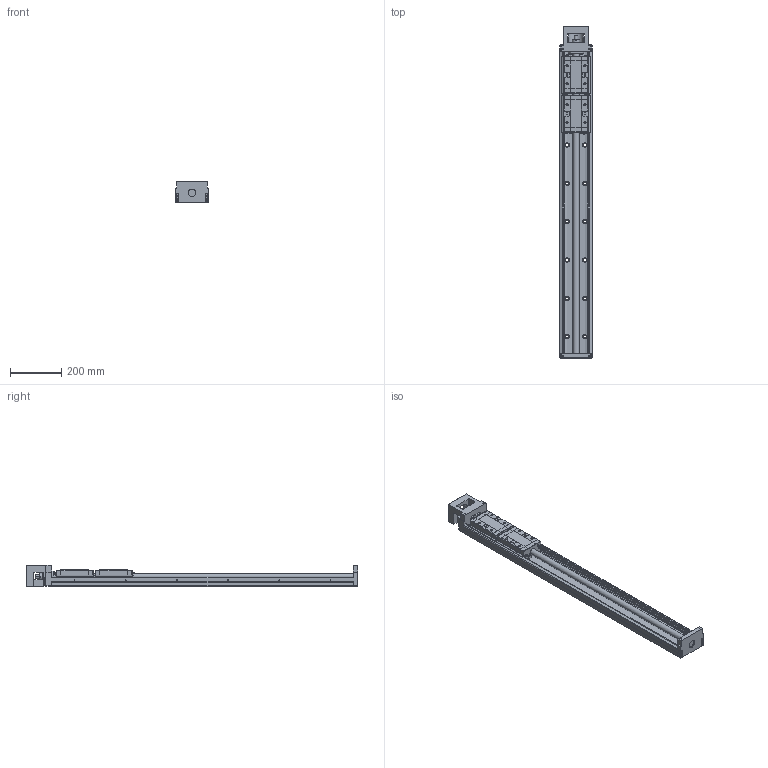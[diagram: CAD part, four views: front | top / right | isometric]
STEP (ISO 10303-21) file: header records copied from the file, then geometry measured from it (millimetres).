
FILE_DESCRIPTION(('no description'),'unknown implementation level');
FILE_NAME('KK13025P1180A2F0000_FILE_15.stp',' ',('HIWIN GmbH'),('CADClick - KiM GmbH - www.kimweb.de'),'unknown preprocess','ACIS','unknown authorization');
FILE_SCHEMA(('automotive_design'));
Length unit declared in the file: millimetre
Products named in the file (3): KK13025P1180A2F0000_FILE_1; KK130_FILE; KK13025P1180A2F0000_FILE
Bounding box: 130 x 1298 x 83 mm (x, y, z)
Volume: 5542808.1 mm3; surface area: 788099.9 mm2
Topology: 3 solids, 13 shells, 1068 faces, 2648 edges, 1704 vertices
Faces by surface type: plane 666, cylinder 346, torus 44, cone 8, sphere 4
Entity records: 62258 total; most frequent: DIRECTION 5666, CARTESIAN_POINT 5635, STYLED_ITEM 5419, PRESENTATION_STYLE_ASSIGNMENT 5419, COLOUR_RGB 5419, ORIENTED_EDGE 5288, EDGE_CURVE 2644, CURVE_STYLE 2644
